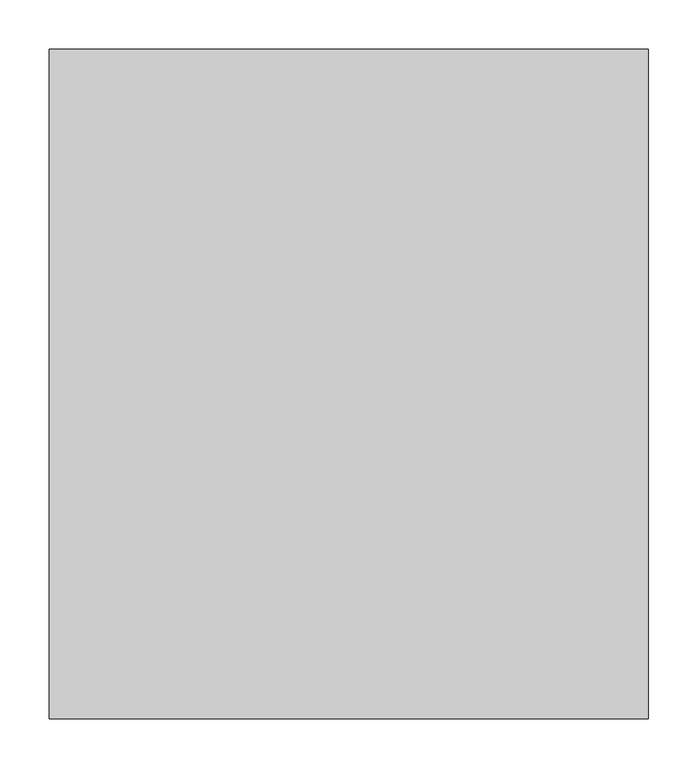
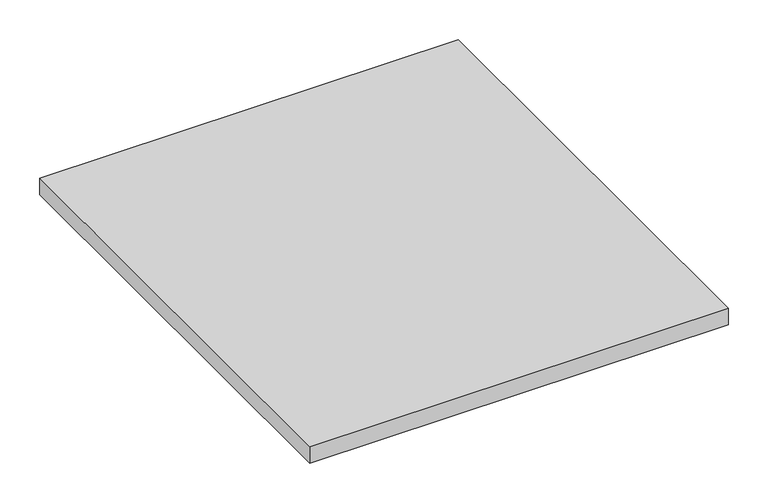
"""IFC4 building model written with IfcOpenShell, lengths in millimetres: proxy geometry, BASYS^CREDENZA 1_INTERNAL DETAILS-RT CTR DOOR."""

from ifc_helpers import new_model, si_unit, frame, origin, place, context, project, spatial, polyline, outline, extrude, source, transform, mapped, element, save


def generic_models_5b38791a(model_context):
    return source(origin(), model_context, "Body", "SweptSolid", [
        extrude(outline(polyline([(1827.0362875, -687.55), (1220.41285, -687.55), (1220.41285, -9.525), (1827.0362875, -9.525), (1827.0362875, -687.55)])), frame((0.0, 0.0, -25.4), z_axis=(0.0, 0.0, 1.0), x_axis=(1.0, 0.0, 0.0)), (0.0, 0.0, 1.0), 25.4),
    ])


if __name__ == "__main__":
    model = new_model("IFC4")
    model_context = context("Model", 3, world=origin())
    ifc_project = project(units=[si_unit("LENGTHUNIT", "METRE", prefix="MILLI")], contexts=[model_context])
    site = spatial("IfcSite", under=ifc_project)
    building = spatial("IfcBuilding", under=site)
    placement = place(None, origin())
    generic_models_shape = generic_models_5b38791a(model_context)
    element("IfcBuildingElementProxy", 1, Name="BASYS^CREDENZA 1_INTERNAL DETAILS-RT CTR DOOR", ObjectType="BASYS^CREDENZA 1_INTERNAL DETAILS-RT CTR DOOR", at=placement, inside=building, context=model_context, shape_type="MappedRepresentation", body=[
        mapped(generic_models_shape, transform((0.0, 0.0, 0.0), x_axis=(1.0, 0.0, 0.0), y_axis=(0.0, 1.0, 0.0), z_axis=(0.0, 0.0, 1.0))),
    ])
    save(model, "model.ifc")
